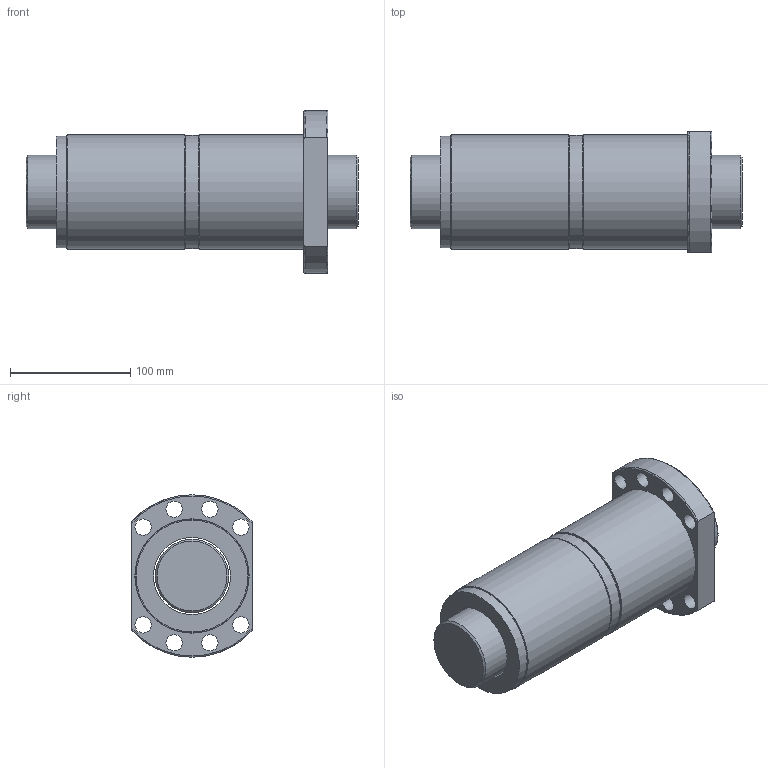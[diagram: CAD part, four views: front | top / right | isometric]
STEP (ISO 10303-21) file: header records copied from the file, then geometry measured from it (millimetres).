
FILE_DESCRIPTION(/* description */ (''),/* implementation_level */ '2;1');
FILE_NAME(/* name */ 'DFS6320',/* time_stamp */ '2007-10-26T13:55:30+08:00',/* author */ (''),/* organization */ (''),/* preprocessor_version */ 'ST-DEVELOPER v9',/* originating_system */ 'UGS - NX 3.0',/* authorisation */ '');
FILE_SCHEMA (('CONFIG_CONTROL_DESIGN'));
Length unit declared in the file: millimetre
Products named in the file (1): jaso15A4i33l
Bounding box: 276 x 100 x 135 mm (x, y, z)
Volume: 1751788.8 mm3; surface area: 229928.3 mm2
Topology: 6 solids, 6 shells, 49 faces, 106 edges, 71 vertices
Faces by surface type: cylinder 22, plane 16, torus 9, cone 2
Full cylindrical faces by diameter (mm): 13.5 x8, 61 x1, 64 x5, 93 x2, 94 x1, 95 x3
Entity records: 1418 total; most frequent: CARTESIAN_POINT 334, DIRECTION 218, ORIENTED_EDGE 142, AXIS2_PLACEMENT_3D 105, EDGE_LOOP 104, FACE_BOUND 80, EDGE_CURVE 71, VERTEX_POINT 63
